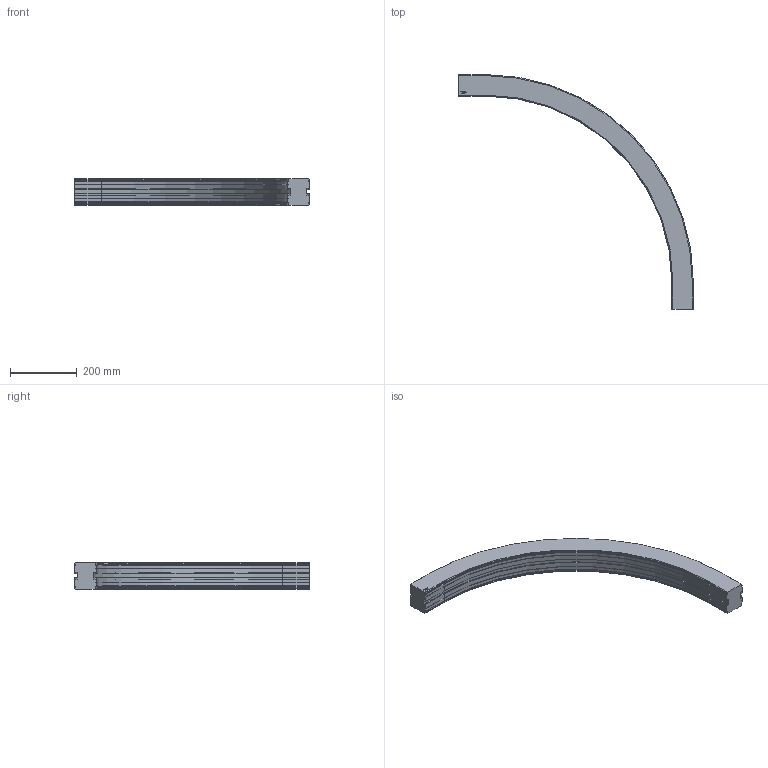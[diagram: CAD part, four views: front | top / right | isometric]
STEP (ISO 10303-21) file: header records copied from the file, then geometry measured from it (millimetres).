
FILE_DESCRIPTION((''),'2;1');
FILE_NAME('C:\Vault Klient\Projekt\Koncept konstruktion\Serie 620 Balk\620-5360.stp','2009-11-26T15:28:50',('Mathias'),(''),'Autodesk Inventor 2010','Autodesk Inventor 2010','');
FILE_SCHEMA(('AUTOMOTIVE_DESIGN { 1 0 10303 214 1 1 1 1 }'));
Length unit declared in the file: millimetre
Products named in the file (1): 620-5360
Bounding box: 701 x 701 x 78 mm (x, y, z)
Volume: 5046645.1 mm3; surface area: 400536.9 mm2
Topology: 1 solids, 1 shells, 169 faces, 446 edges, 284 vertices
Faces by surface type: plane 109, cylinder 30, bspline 14, cone 12, torus 4
Entity records: 5295 total; most frequent: CARTESIAN_POINT 1094, ORIENTED_EDGE 892, DIRECTION 802, EDGE_CURVE 446, VECTOR 346, LINE 346, VERTEX_POINT 284, AXIS2_PLACEMENT_3D 228
